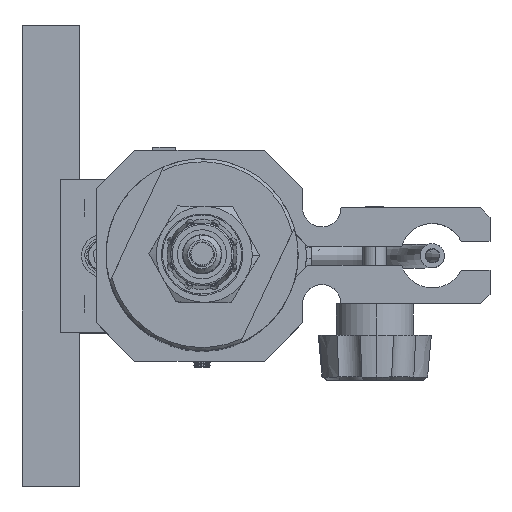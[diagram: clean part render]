
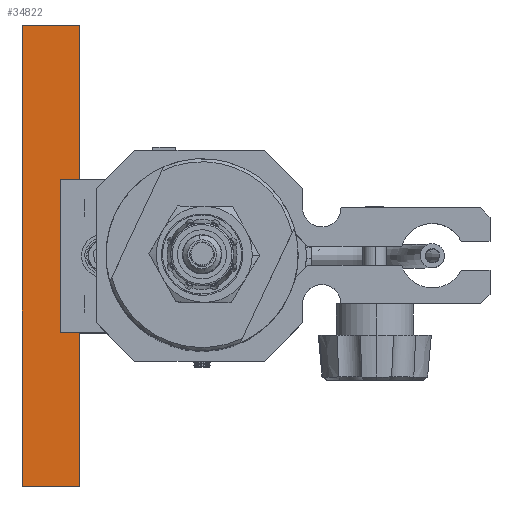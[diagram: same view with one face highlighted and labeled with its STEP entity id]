
A CAD part, top view. The second image highlights one B-rep face of the part: STEP entity #34822.
In plain terms, the highlighted planar face has unit normal (0, 0, 1).
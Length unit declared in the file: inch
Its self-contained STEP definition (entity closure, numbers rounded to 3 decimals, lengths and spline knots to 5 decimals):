
#1670 = CARTESIAN_POINT ( 'NONE',  ( -0.7975, -1.5, -0.05975 ) ) ;
#2471 = EDGE_CURVE ( 'NONE', #126524, #52559, #128780, .T. ) ;
#10211 = ORIENTED_EDGE ( 'NONE', *, *, #2471, .T. ) ;
#10751 = LINE ( 'NONE', #65474, #159365 ) ;
#16925 = DIRECTION ( 'NONE',  ( 0., 1., 0. ) ) ;
#27686 = ORIENTED_EDGE ( 'NONE', *, *, #146362, .T. ) ;
#28249 = ORIENTED_EDGE ( 'NONE', *, *, #127219, .F. ) ;
#30053 = CARTESIAN_POINT ( 'NONE',  ( -0.7975, 1.5, -0.05975 ) ) ;
#34526 = EDGE_LOOP ( 'NONE', ( #10211, #28249, #69385, #27686 ) ) ;
#34649 = DIRECTION ( 'NONE',  ( 0., 1., 0. ) ) ;
#34822 = ADVANCED_FACE ( 'NONE', ( #49672 ), #98225, .F. ) ;
#39436 = CARTESIAN_POINT ( 'NONE',  ( -0.7975, 1.5, -0.05975 ) ) ;
#49672 = FACE_OUTER_BOUND ( 'NONE', #34526, .T. ) ;
#52559 = VERTEX_POINT ( 'NONE', #39436 ) ;
#64909 = VERTEX_POINT ( 'NONE', #101495 ) ;
#65474 = CARTESIAN_POINT ( 'NONE',  ( -1.1725, -1.5, -0.05975 ) ) ;
#69360 = VERTEX_POINT ( 'NONE', #83413 ) ;
#69385 = ORIENTED_EDGE ( 'NONE', *, *, #70650, .F. ) ;
#70650 = EDGE_CURVE ( 'NONE', #64909, #69360, #111121, .T. ) ;
#83413 = CARTESIAN_POINT ( 'NONE',  ( -1.1725, 1.5, -0.05975 ) ) ;
#84046 = DIRECTION ( 'NONE',  ( 1., 0., 0. ) ) ;
#84230 = DIRECTION ( 'NONE',  ( 1., 0., 0. ) ) ;
#84846 = CARTESIAN_POINT ( 'NONE',  ( -1.1725, 1.5, -0.05975 ) ) ;
#98225 = PLANE ( 'NONE',  #113865 ) ;
#99031 = CARTESIAN_POINT ( 'NONE',  ( -1.1725, 1.5, -0.05975 ) ) ;
#101495 = CARTESIAN_POINT ( 'NONE',  ( -1.1725, -1.5, -0.05975 ) ) ;
#111121 = LINE ( 'NONE', #147372, #150052 ) ;
#113865 = AXIS2_PLACEMENT_3D ( 'NONE', #99031, #147638, #84230 ) ;
#115719 = DIRECTION ( 'NONE',  ( 1., 0., 0. ) ) ;
#126524 = VERTEX_POINT ( 'NONE', #1670 ) ;
#127219 = EDGE_CURVE ( 'NONE', #69360, #52559, #148270, .T. ) ;
#128443 = VECTOR ( 'NONE', #16925, 39.37008 ) ;
#128780 = LINE ( 'NONE', #30053, #128443 ) ;
#146362 = EDGE_CURVE ( 'NONE', #64909, #126524, #10751, .T. ) ;
#147372 = CARTESIAN_POINT ( 'NONE',  ( -1.1725, 1.5, -0.05975 ) ) ;
#147638 = DIRECTION ( 'NONE',  ( 0., 0., -1. ) ) ;
#148270 = LINE ( 'NONE', #84846, #159051 ) ;
#150052 = VECTOR ( 'NONE', #34649, 39.37008 ) ;
#159051 = VECTOR ( 'NONE', #84046, 39.37008 ) ;
#159365 = VECTOR ( 'NONE', #115719, 39.37008 ) ;
